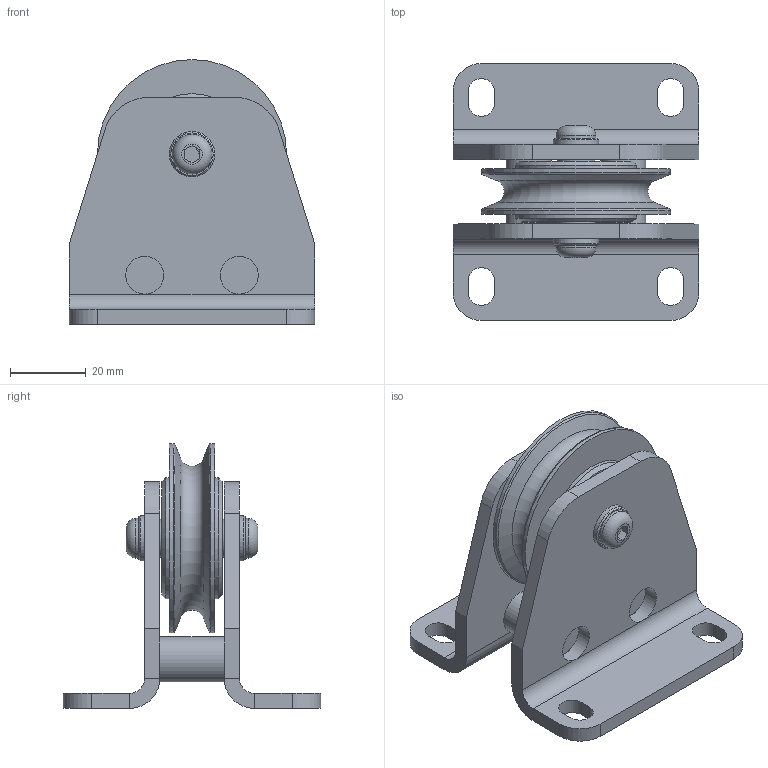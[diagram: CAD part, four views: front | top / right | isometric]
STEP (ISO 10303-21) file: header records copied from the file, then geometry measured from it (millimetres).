
FILE_DESCRIPTION(/* description */ ('Seilrollenbock ø50 Stahl Gleitlager komplett'),/* implementation_level */ '2;1');
FILE_NAME(/* name */ 'Z:\Workspace\03 Seilrollen\1.405 Seilrollenbock Stahl Gleitlager\1.405.01 Seilrollenbock ø50 Stahl Gleitlager\1.405.01 Seilrollenbock ø50 Stahl Gleitlager komplett.stp',/* time_stamp */ '2021-10-05T13:20:42+02:00',/* author */ ('cad-user'),/* organization */ (''),/* preprocessor_version */ 'ST-DEVELOPER v18',/* originating_system */ 'Autodesk Inventor 2020',/* authorisation */ '');
FILE_SCHEMA (('AUTOMOTIVE_DESIGN { 1 0 10303 214 3 1 1 }'));
Length unit declared in the file: millimetre
Products named in the file (9): 1.405.01 Seilrollenbock ø50 Stahl Gleitlager komple
tt; 1.405.01.01 Seilrollenbock Schweißteil; 1.405.01.01 Blech; 1.405.01.01 Distanzachse; 1.405.01.02 Achse; ISO 7380 - M6 x 12; DIN 125-1 - B 6,4; 1.401.01 Seilrolle ø50 Buchse; Lagerbuchse 1015-DU
Assembly tree (12 placements, depth 3):
  1.405.01 Seilrollenbock ø50 Stahl Gleitlager komple
tt
    1.405.01.01 Seilrollenbock Schweißteil
      1.405.01.01 Blech  x2
      1.405.01.01 Distanzachse  x2
    1.405.01.02 Achse
    ISO 7380 - M6 x 12  x2
    DIN 125-1 - B 6,4  x2
    1.401.01 Seilrolle ø50 Buchse
    Lagerbuchse 1015-DU
Bounding box: 65 x 68 x 70 mm (x, y, z)
Volume: 60387.5 mm3; surface area: 32721.4 mm2
Topology: 11 solids, 11 shells, 136 faces, 351 edges, 231 vertices
Faces by surface type: plane 70, cylinder 45, cone 14, torus 7
Full cylindrical faces by diameter (mm): 4.917 x1, 6 x2, 6.4 x2, 6.5 x2, 10 x6, 10.5 x2, 12 x5, 32 x2, 50 x2
Entity records: 2945 total; most frequent: DIRECTION 512, CARTESIAN_POINT 477, ORIENTED_EDGE 422, EDGE_CURVE 211, AXIS2_PLACEMENT_3D 209, VERTEX_POINT 141, CIRCLE 106, EDGE_LOOP 98
